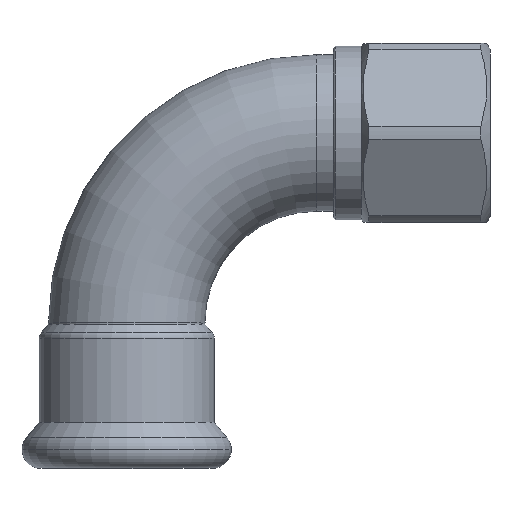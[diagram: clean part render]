
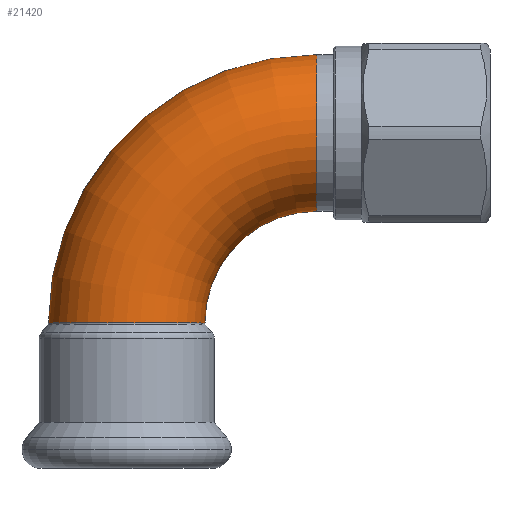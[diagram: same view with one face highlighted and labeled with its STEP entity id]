
A CAD part, top view. The second image highlights one B-rep face of the part: STEP entity #21420.
In plain terms, the highlighted toroidal (fillet/blend) face has major radius 34 mm and minor radius 14 mm.
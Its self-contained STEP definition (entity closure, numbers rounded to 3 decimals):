
#17680=CARTESIAN_POINT('',(-91.071,-305.306,
0.));
#17690=VERTEX_POINT('',#17680);
#17770=CARTESIAN_POINT('',(-91.071,-333.306,
0.));
#17780=VERTEX_POINT('',#17770);
#18000=CARTESIAN_POINT('',(-111.071,-353.306,
0.));
#18010=VERTEX_POINT('',#18000);
#18040=CARTESIAN_POINT('',(-125.071,-353.306,
0.));
#18050=DIRECTION('',(0.,-1.,0.));
#18060=DIRECTION('',(1.,0.,0.));
#18070=AXIS2_PLACEMENT_3D('',#18040,#18050,#18060);
#18080=CIRCLE('',#18070,14.);
#18090=CARTESIAN_POINT('',(-139.071,-353.306,
0.));
#18100=VERTEX_POINT('',#18090);
#18230=CARTESIAN_POINT('',(-91.071,-353.306,
0.));
#18240=DIRECTION('',(0.,0.,1.));
#18250=DIRECTION('',(0.,1.,0.));
#18260=AXIS2_PLACEMENT_3D('',#18230,#18240,#18250);
#18270=TOROIDAL_SURFACE('',#18260,34.,14.);
#18280=CARTESIAN_POINT('',(-91.071,-353.306,
0.));
#18290=DIRECTION('',(0.,0.,1.));
#18300=DIRECTION('',(0.,1.,0.));
#18310=AXIS2_PLACEMENT_3D('',#18280,#18290,#18300);
#18320=CIRCLE('',#18310,20.);
#18330=EDGE_CURVE('',#17780,#18010,#18320,.T.);
#18360=CARTESIAN_POINT('',(-91.071,-353.306,
0.));
#18370=DIRECTION('',(0.,0.,1.));
#18380=DIRECTION('',(0.,1.,0.));
#18390=AXIS2_PLACEMENT_3D('',#18360,#18370,#18380);
#18400=CIRCLE('',#18390,48.);
#18410=EDGE_CURVE('',#17690,#18100,#18400,.T.);
#21130=CARTESIAN_POINT('',(-91.071,-319.306,
0.));
#21140=DIRECTION('',(-1.,0.,0.));
#21150=DIRECTION('',(0.,-1.,0.));
#21160=AXIS2_PLACEMENT_3D('',#21130,#21140,#21150);
#21170=CIRCLE('',#21160,14.);
#21180=EDGE_CURVE('',#17780,#17690,#21170,.T.);
#21350=EDGE_CURVE('',#18010,#18100,#18080,.T.);
#21360=ORIENTED_EDGE('',*,*,#21350,.F.);
#21370=ORIENTED_EDGE('',*,*,#18410,.T.);
#21380=ORIENTED_EDGE('',*,*,#21180,.T.);
#21390=ORIENTED_EDGE('',*,*,#18330,.F.);
#21400=EDGE_LOOP('',(#21390,#21380,#21370,#21360));
#21410=FACE_OUTER_BOUND('',#21400,.T.);
#21420=ADVANCED_FACE('',(#21410),#18270,.T.);
